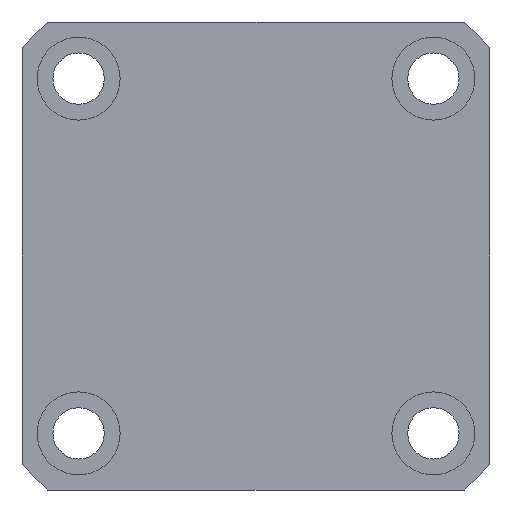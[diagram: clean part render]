
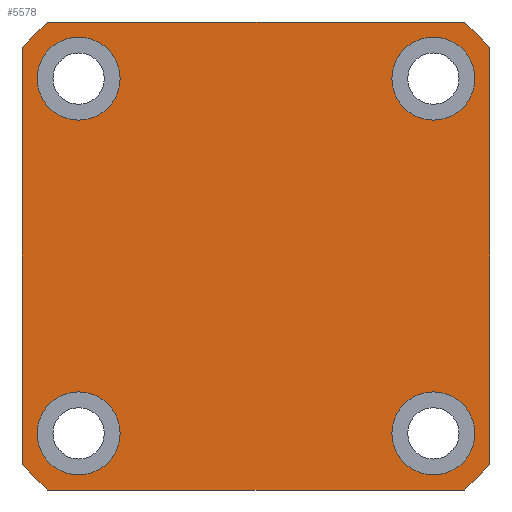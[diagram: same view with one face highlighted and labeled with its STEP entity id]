
A CAD part, left-side view. The second image highlights one B-rep face of the part: STEP entity #5578.
In plain terms, the highlighted planar face has unit normal (-1, 0, 0).
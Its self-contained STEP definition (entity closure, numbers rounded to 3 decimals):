
#3008=FACE_BOUND('',#6757,.T.);
#3009=FACE_BOUND('',#6758,.T.);
#3010=FACE_BOUND('',#6759,.T.);
#3011=FACE_BOUND('',#6760,.T.);
#3012=FACE_BOUND('',#6761,.T.);
#3195=LINE('',#20442,#4116);
#3203=LINE('',#21261,#4124);
#3205=LINE('',#21267,#4126);
#3206=LINE('',#21271,#4127);
#4116=VECTOR('',#14414,1.);
#4124=VECTOR('',#14600,1.);
#4126=VECTOR('',#14606,1.);
#4127=VECTOR('',#14609,1.);
#5134=PLANE('',#13879);
#5578=ADVANCED_FACE('',(#3008,#3009,#3010,#3011,#3012),#5134,.F.);
#6757=EDGE_LOOP('',(#7791,#7792,#7793,#7794,#7795,#7796,#7797,#7798));
#6758=EDGE_LOOP('',(#7799));
#6759=EDGE_LOOP('',(#7800));
#6760=EDGE_LOOP('',(#7801));
#6761=EDGE_LOOP('',(#7802));
#7368=CIRCLE('',#13786,5.5);
#7370=CIRCLE('',#13789,5.5);
#7372=CIRCLE('',#13792,5.5);
#7374=CIRCLE('',#13795,5.5);
#7419=CIRCLE('',#13875,41.5);
#7420=CIRCLE('',#13876,41.5);
#7421=CIRCLE('',#13877,41.5);
#7422=CIRCLE('',#13878,41.5);
#7791=ORIENTED_EDGE('',*,*,#11827,.F.);
#7792=ORIENTED_EDGE('',*,*,#11828,.F.);
#7793=ORIENTED_EDGE('',*,*,#11829,.F.);
#7794=ORIENTED_EDGE('',*,*,#11830,.F.);
#7795=ORIENTED_EDGE('',*,*,#11831,.F.);
#7796=ORIENTED_EDGE('',*,*,#11725,.F.);
#7797=ORIENTED_EDGE('',*,*,#11832,.F.);
#7798=ORIENTED_EDGE('',*,*,#11825,.F.);
#7799=ORIENTED_EDGE('',*,*,#11727,.F.);
#7800=ORIENTED_EDGE('',*,*,#11729,.F.);
#7801=ORIENTED_EDGE('',*,*,#11731,.F.);
#7802=ORIENTED_EDGE('',*,*,#11733,.F.);
#10629=VERTEX_POINT('',#20441);
#10630=VERTEX_POINT('',#20443);
#10631=VERTEX_POINT('',#20447);
#10633=VERTEX_POINT('',#20452);
#10635=VERTEX_POINT('',#20457);
#10637=VERTEX_POINT('',#20462);
#10717=VERTEX_POINT('',#21260);
#10718=VERTEX_POINT('',#21262);
#10719=VERTEX_POINT('',#21266);
#10720=VERTEX_POINT('',#21268);
#10721=VERTEX_POINT('',#21270);
#10722=VERTEX_POINT('',#21272);
#11725=EDGE_CURVE('',#10629,#10630,#3195,.T.);
#11727=EDGE_CURVE('',#10631,#10631,#7368,.T.);
#11729=EDGE_CURVE('',#10633,#10633,#7370,.T.);
#11731=EDGE_CURVE('',#10635,#10635,#7372,.T.);
#11733=EDGE_CURVE('',#10637,#10637,#7374,.T.);
#11825=EDGE_CURVE('',#10717,#10718,#3203,.T.);
#11827=EDGE_CURVE('',#10719,#10717,#7419,.T.);
#11828=EDGE_CURVE('',#10720,#10719,#3205,.T.);
#11829=EDGE_CURVE('',#10721,#10720,#7420,.T.);
#11830=EDGE_CURVE('',#10722,#10721,#3206,.T.);
#11831=EDGE_CURVE('',#10630,#10722,#7421,.T.);
#11832=EDGE_CURVE('',#10718,#10629,#7422,.T.);
#13786=AXIS2_PLACEMENT_3D('',#20446,#14418,#14419);
#13789=AXIS2_PLACEMENT_3D('',#20451,#14424,#14425);
#13792=AXIS2_PLACEMENT_3D('',#20456,#14430,#14431);
#13795=AXIS2_PLACEMENT_3D('',#20461,#14436,#14437);
#13875=AXIS2_PLACEMENT_3D('',#21265,#14604,#14605);
#13876=AXIS2_PLACEMENT_3D('',#21269,#14607,#14608);
#13877=AXIS2_PLACEMENT_3D('',#21273,#14610,#14611);
#13878=AXIS2_PLACEMENT_3D('',#21274,#14612,#14613);
#13879=AXIS2_PLACEMENT_3D('',#21275,#14614,#14615);
#14414=DIRECTION('',(0.,1.,0.));
#14418=DIRECTION('',(-1.,0.,0.));
#14419=DIRECTION('',(0.,0.,1.));
#14424=DIRECTION('',(-1.,0.,0.));
#14425=DIRECTION('',(0.,0.,1.));
#14430=DIRECTION('',(-1.,0.,0.));
#14431=DIRECTION('',(0.,0.,1.));
#14436=DIRECTION('',(-1.,0.,0.));
#14437=DIRECTION('',(0.,0.,1.));
#14600=DIRECTION('',(0.,0.,-1.));
#14604=DIRECTION('',(1.,0.,0.));
#14605=DIRECTION('',(0.,0.,-1.));
#14606=DIRECTION('',(0.,-1.,0.));
#14607=DIRECTION('',(1.,0.,0.));
#14608=DIRECTION('',(0.,0.,-1.));
#14609=DIRECTION('',(0.,0.,1.));
#14610=DIRECTION('',(1.,0.,0.));
#14611=DIRECTION('',(0.,0.,-1.));
#14612=DIRECTION('',(1.,0.,0.));
#14613=DIRECTION('',(0.,0.,-1.));
#14614=DIRECTION('',(1.,0.,0.));
#14615=DIRECTION('',(0.,0.,1.));
#20441=CARTESIAN_POINT('',(0.,3.409,-62.));
#20442=CARTESIAN_POINT('',(0.,31.,-62.));
#20443=CARTESIAN_POINT('',(0.,58.591,-62.));
#20446=CARTESIAN_POINT('',(0.,7.5,-54.5));
#20447=CARTESIAN_POINT('',(0.,7.5,-49.));
#20451=CARTESIAN_POINT('',(0.,7.5,-7.5));
#20452=CARTESIAN_POINT('',(0.,7.5,-2.));
#20456=CARTESIAN_POINT('',(0.,54.5,-7.5));
#20457=CARTESIAN_POINT('',(0.,54.5,-2.));
#20461=CARTESIAN_POINT('',(0.,54.5,-54.5));
#20462=CARTESIAN_POINT('',(0.,54.5,-49.));
#21260=CARTESIAN_POINT('',(0.,0.,-3.409));
#21261=CARTESIAN_POINT('',(0.,0.,-6.));
#21262=CARTESIAN_POINT('',(0.,0.,-58.591));
#21265=CARTESIAN_POINT('',(0.,31.,-31.));
#21266=CARTESIAN_POINT('',(0.,3.409,0.));
#21267=CARTESIAN_POINT('',(0.,31.,0.));
#21268=CARTESIAN_POINT('',(0.,58.591,0.));
#21269=CARTESIAN_POINT('',(0.,31.,-31.));
#21270=CARTESIAN_POINT('',(0.,62.,-3.409));
#21271=CARTESIAN_POINT('',(0.,62.,-31.));
#21272=CARTESIAN_POINT('',(0.,62.,-58.591));
#21273=CARTESIAN_POINT('',(0.,31.,-31.));
#21274=CARTESIAN_POINT('',(0.,31.,-31.));
#21275=CARTESIAN_POINT('',(0.,31.,-31.));
